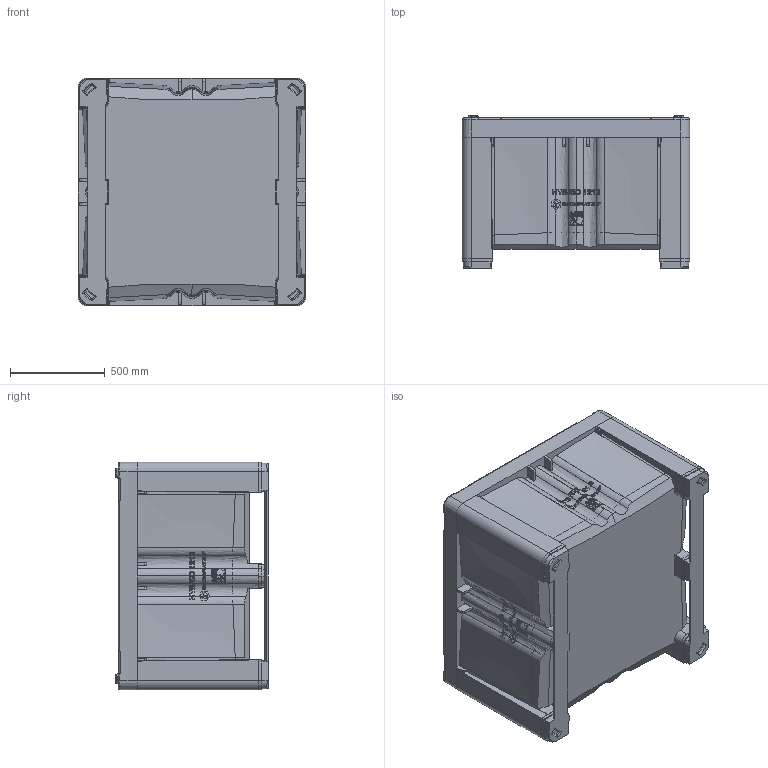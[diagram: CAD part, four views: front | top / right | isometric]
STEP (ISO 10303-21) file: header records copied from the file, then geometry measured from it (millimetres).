
FILE_DESCRIPTION (( 'STEP AP214' ), '1' );
FILE_NAME ('1112xxxxxxxx 1212-790 Hybrid Block 4way.STEP', '2018-08-28T23:24:22', ( '' ), ( '' ), 'SwSTEP 2.0', 'SolidWorks 2018', '' );
FILE_SCHEMA (( 'AUTOMOTIVE_DESIGN' ));
Products named in the file (1): 1112xxxxxxxx 1212-790 Hybrid Block 4way
Bounding box: 1200 x 802.5 x 1200 mm (x, y, z)
Volume: 120475465.4 mm3; surface area: 10976936.3 mm2
Topology: 7 solids, 7 shells, 6197 faces, 16888 edges, 11197 vertices
Faces by surface type: plane 3031, bspline 2644, cylinder 484, sphere 18, cone 16, torus 4
Entity records: 332742 total; most frequent: CARTESIAN_POINT 202477, ORIENTED_EDGE 33744, EDGE_CURVE 16872, DIRECTION 14834, VERTEX_POINT 11197, B_SPLINE_CURVE_WITH_KNOTS 9248, VECTOR 7322, LINE 7322
